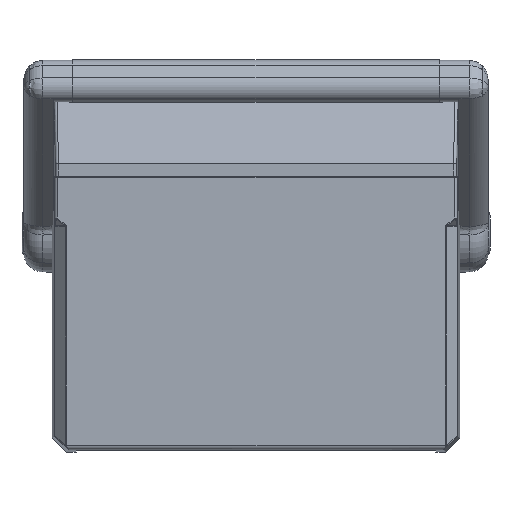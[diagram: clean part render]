
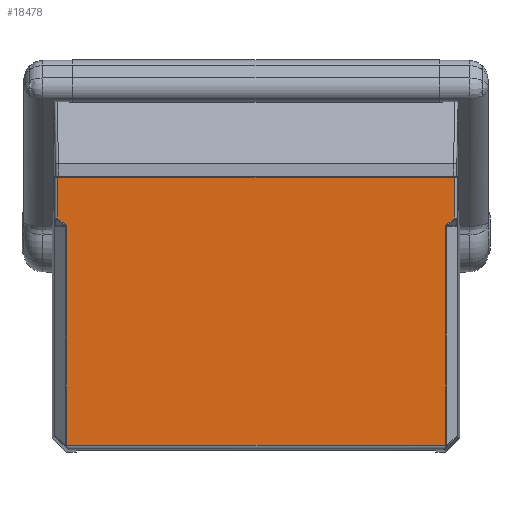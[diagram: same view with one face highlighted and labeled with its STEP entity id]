
A CAD part, front view. The second image highlights one B-rep face of the part: STEP entity #18478.
In plain terms, the highlighted planar face has unit normal (0, -1, 0).
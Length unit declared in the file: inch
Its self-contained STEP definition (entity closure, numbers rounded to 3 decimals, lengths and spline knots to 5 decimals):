
#136 = LINE ( 'NONE', #4832, #51410 ) ;
#838 = CARTESIAN_POINT ( 'NONE',  ( -0.95979, -0.985, -1.59401 ) ) ;
#2145 = DIRECTION ( 'NONE',  ( 0.816, 0., -0.577 ) ) ;
#2898 = ORIENTED_EDGE ( 'NONE', *, *, #25535, .T. ) ;
#3244 = ORIENTED_EDGE ( 'NONE', *, *, #51379, .T. ) ;
#4016 = CARTESIAN_POINT ( 'NONE',  ( 3.71201, -0.985, -2.61797 ) ) ;
#4832 = CARTESIAN_POINT ( 'NONE',  ( -3.92644, -0.985, 1.87 ) ) ;
#5621 = VERTEX_POINT ( 'NONE', #5643 ) ;
#5643 = CARTESIAN_POINT ( 'NONE',  ( -3.92644, -0.985, 2.687 ) ) ;
#6210 = VECTOR ( 'NONE', #25070, 39.37008 ) ;
#7215 = VERTEX_POINT ( 'NONE', #30970 ) ;
#7696 = VERTEX_POINT ( 'NONE', #15950 ) ;
#7703 = CARTESIAN_POINT ( 'NONE',  ( 3.92644, -0.985, 1.86108 ) ) ;
#7979 = EDGE_CURVE ( 'NONE', #7696, #7215, #47174, .T. ) ;
#8091 = LINE ( 'NONE', #4016, #49870 ) ;
#8569 = CARTESIAN_POINT ( 'NONE',  ( -3.75157, -0.985, -2.65078 ) ) ;
#9355 = CARTESIAN_POINT ( 'NONE',  ( -4.035, -0.985, 2.687 ) ) ;
#9784 =( BOUNDED_CURVE ( )  B_SPLINE_CURVE ( 3, ( #43433, #11077, #15144, #19219 ),
 .UNSPECIFIED., .F., .F. ) 
 B_SPLINE_CURVE_WITH_KNOTS ( ( 4, 4 ),
 ( 2.35619, 3.14159 ),
 .UNSPECIFIED. ) 
 CURVE ( )  GEOMETRIC_REPRESENTATION_ITEM ( )  RATIONAL_B_SPLINE_CURVE ( ( 1., 0.949, 0.949, 1. ) ) 
 REPRESENTATION_ITEM ( '' )  );
#10214 = CARTESIAN_POINT ( 'NONE',  ( -3.7603, -0.985, 1.7436 ) ) ;
#11021 = VERTEX_POINT ( 'NONE', #41279 ) ;
#11077 = CARTESIAN_POINT ( 'NONE',  ( 3.7603, -0.985, 1.7436 ) ) ;
#12130 = EDGE_CURVE ( 'NONE', #48287, #50572, #9784, .T. ) ;
#12299 = CARTESIAN_POINT ( 'NONE',  ( 3.77643, -0.985, 1.755 ) ) ;
#13383 = DIRECTION ( 'NONE',  ( -1., 0., 0. ) ) ;
#14456 = ORIENTED_EDGE ( 'NONE', *, *, #7979, .T. ) ;
#14765 = CARTESIAN_POINT ( 'NONE',  ( -3.75157, -0.985, 1.71257 ) ) ;
#15144 = CARTESIAN_POINT ( 'NONE',  ( 3.75157, -0.985, 1.7287 ) ) ;
#15331 = CARTESIAN_POINT ( 'NONE',  ( -4.035, -0.985, 2.755 ) ) ;
#15950 = CARTESIAN_POINT ( 'NONE',  ( -3.92644, -0.985, 1.86108 ) ) ;
#16850 = LINE ( 'NONE', #27579, #26355 ) ;
#17540 = VERTEX_POINT ( 'NONE', #40740 ) ;
#17598 = EDGE_CURVE ( 'NONE', #5621, #7696, #136, .T. ) ;
#18088 = EDGE_LOOP ( 'NONE', ( #2898, #32654, #31495, #49483, #51414, #35310, #3244, #43994, #14456, #30853 ) ) ;
#18478 = ADVANCED_FACE ( 'NONE', ( #43070 ), #19423, .F. ) ;
#18665 = VECTOR ( 'NONE', #13383, 39.37008 ) ;
#19219 = CARTESIAN_POINT ( 'NONE',  ( 3.75157, -0.985, 1.71257 ) ) ;
#19423 = PLANE ( 'NONE',  #44501 ) ;
#20926 = DIRECTION ( 'NONE',  ( 0., 0., -1. ) ) ;
#21776 = EDGE_CURVE ( 'NONE', #11021, #50572, #16850, .T. ) ;
#23464 = DIRECTION ( 'NONE',  ( 0., 1., 0. ) ) ;
#25070 = DIRECTION ( 'NONE',  ( 0.816, 0., 0.577 ) ) ;
#25154 = LINE ( 'NONE', #838, #6210 ) ;
#25370 = DIRECTION ( 'NONE',  ( 0., 0., 1. ) ) ;
#25535 = EDGE_CURVE ( 'NONE', #30871, #17540, #26066, .T. ) ;
#26066 = LINE ( 'NONE', #8569, #46322 ) ;
#26325 = CARTESIAN_POINT ( 'NONE',  ( -3.75157, -0.985, 1.7287 ) ) ;
#26355 = VECTOR ( 'NONE', #31463, 39.37008 ) ;
#26739 = EDGE_CURVE ( 'NONE', #30871, #7215, #46493, .T. ) ;
#27579 = CARTESIAN_POINT ( 'NONE',  ( 3.75157, -0.985, 2.755 ) ) ;
#28222 = EDGE_CURVE ( 'NONE', #48287, #44104, #25154, .T. ) ;
#28698 = CARTESIAN_POINT ( 'NONE',  ( 3.75157, -0.985, 1.71257 ) ) ;
#30330 = CARTESIAN_POINT ( 'NONE',  ( -4.42021, -0.985, 2.21023 ) ) ;
#30853 = ORIENTED_EDGE ( 'NONE', *, *, #26739, .F. ) ;
#30871 = VERTEX_POINT ( 'NONE', #14765 ) ;
#30970 = CARTESIAN_POINT ( 'NONE',  ( -3.77643, -0.985, 1.755 ) ) ;
#31463 = DIRECTION ( 'NONE',  ( 0., 0., 1. ) ) ;
#31495 = ORIENTED_EDGE ( 'NONE', *, *, #21776, .T. ) ;
#32654 = ORIENTED_EDGE ( 'NONE', *, *, #49389, .T. ) ;
#35310 = ORIENTED_EDGE ( 'NONE', *, *, #46950, .T. ) ;
#36851 = VECTOR ( 'NONE', #25370, 39.37008 ) ;
#38517 = CARTESIAN_POINT ( 'NONE',  ( -3.77643, -0.985, 1.755 ) ) ;
#39392 = LINE ( 'NONE', #41477, #36851 ) ;
#40740 = CARTESIAN_POINT ( 'NONE',  ( -3.75157, -0.985, -2.61797 ) ) ;
#40761 = DIRECTION ( 'NONE',  ( 0., 0., -1. ) ) ;
#41279 = CARTESIAN_POINT ( 'NONE',  ( 3.75157, -0.985, -2.61797 ) ) ;
#41477 = CARTESIAN_POINT ( 'NONE',  ( 3.92644, -0.985, 2.692 ) ) ;
#43070 = FACE_OUTER_BOUND ( 'NONE', #18088, .T. ) ;
#43433 = CARTESIAN_POINT ( 'NONE',  ( 3.77643, -0.985, 1.755 ) ) ;
#43994 = ORIENTED_EDGE ( 'NONE', *, *, #17598, .T. ) ;
#44104 = VERTEX_POINT ( 'NONE', #7703 ) ;
#44501 = AXIS2_PLACEMENT_3D ( 'NONE', #15331, #23464, #51788 ) ;
#45901 = VECTOR ( 'NONE', #2145, 39.37008 ) ;
#46322 = VECTOR ( 'NONE', #40761, 39.37008 ) ;
#46484 = CARTESIAN_POINT ( 'NONE',  ( -3.75157, -0.985, 1.71257 ) ) ;
#46493 =( BOUNDED_CURVE ( )  B_SPLINE_CURVE ( 3, ( #46484, #26325, #10214, #38517 ),
 .UNSPECIFIED., .F., .F. ) 
 B_SPLINE_CURVE_WITH_KNOTS ( ( 4, 4 ),
 ( 0., 0.7854 ),
 .UNSPECIFIED. ) 
 CURVE ( )  GEOMETRIC_REPRESENTATION_ITEM ( )  RATIONAL_B_SPLINE_CURVE ( ( 1., 0.949, 0.949, 1. ) ) 
 REPRESENTATION_ITEM ( '' )  );
#46950 = EDGE_CURVE ( 'NONE', #44104, #47726, #39392, .T. ) ;
#47174 = LINE ( 'NONE', #30330, #45901 ) ;
#47726 = VERTEX_POINT ( 'NONE', #51653 ) ;
#48287 = VERTEX_POINT ( 'NONE', #12299 ) ;
#49389 = EDGE_CURVE ( 'NONE', #17540, #11021, #8091, .T. ) ;
#49483 = ORIENTED_EDGE ( 'NONE', *, *, #12130, .F. ) ;
#49870 = VECTOR ( 'NONE', #52470, 39.37008 ) ;
#50572 = VERTEX_POINT ( 'NONE', #28698 ) ;
#50948 = LINE ( 'NONE', #9355, #18665 ) ;
#51379 = EDGE_CURVE ( 'NONE', #47726, #5621, #50948, .T. ) ;
#51410 = VECTOR ( 'NONE', #20926, 39.37008 ) ;
#51414 = ORIENTED_EDGE ( 'NONE', *, *, #28222, .T. ) ;
#51653 = CARTESIAN_POINT ( 'NONE',  ( 3.92644, -0.985, 2.687 ) ) ;
#51788 = DIRECTION ( 'NONE',  ( 0., 0., 1. ) ) ;
#52470 = DIRECTION ( 'NONE',  ( 1., 0., 0. ) ) ;
